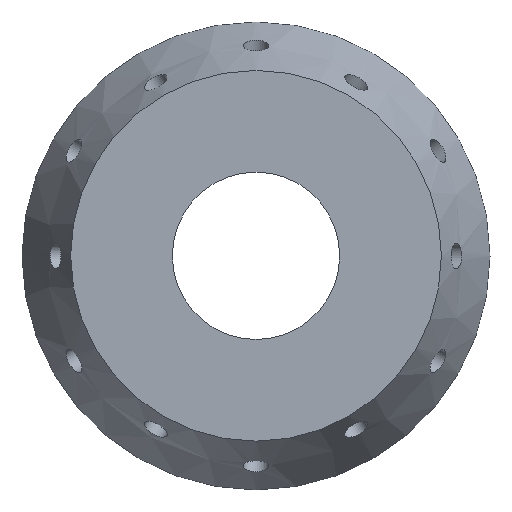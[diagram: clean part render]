
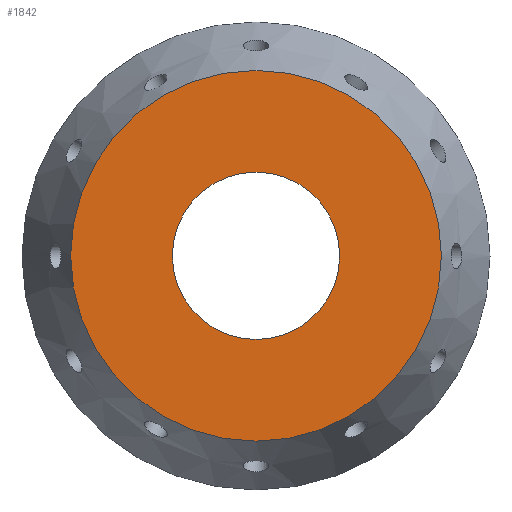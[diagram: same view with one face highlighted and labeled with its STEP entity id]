
A CAD part, top view. The second image highlights one B-rep face of the part: STEP entity #1842.
In plain terms, the highlighted planar face has unit normal (0, 0, 1).
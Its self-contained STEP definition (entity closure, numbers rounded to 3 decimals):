
#102 = VERTEX_POINT('',#103);
#103 = CARTESIAN_POINT('',(4.427,0.,5.585));
#109 = EDGE_CURVE('',#102,#102,#110,.T.);
#110 = CIRCLE('',#111,4.427);
#111 = AXIS2_PLACEMENT_3D('',#112,#113,#114);
#112 = CARTESIAN_POINT('',(0.,0.,5.585));
#113 = DIRECTION('',(0.,0.,-1.));
#114 = DIRECTION('',(1.,0.,0.));
#941 = EDGE_CURVE('',#942,#942,#944,.T.);
#942 = VERTEX_POINT('',#943);
#943 = CARTESIAN_POINT('',(9.802,0.,5.585));
#944 = CIRCLE('',#945,9.802);
#945 = AXIS2_PLACEMENT_3D('',#946,#947,#948);
#946 = CARTESIAN_POINT('',(0.,0.,5.585));
#947 = DIRECTION('',(0.,0.,-1.));
#948 = DIRECTION('',(1.,0.,0.));
#1842 = ADVANCED_FACE('',(#1843,#1846),#1849,.F.);
#1843 = FACE_BOUND('',#1844,.T.);
#1844 = EDGE_LOOP('',(#1845));
#1845 = ORIENTED_EDGE('',*,*,#109,.T.);
#1846 = FACE_BOUND('',#1847,.T.);
#1847 = EDGE_LOOP('',(#1848));
#1848 = ORIENTED_EDGE('',*,*,#941,.F.);
#1849 = PLANE('',#1850);
#1850 = AXIS2_PLACEMENT_3D('',#1851,#1852,#1853);
#1851 = CARTESIAN_POINT('',(0.,0.,5.585));
#1852 = DIRECTION('',(0.,0.,-1.));
#1853 = DIRECTION('',(1.,0.,0.));
